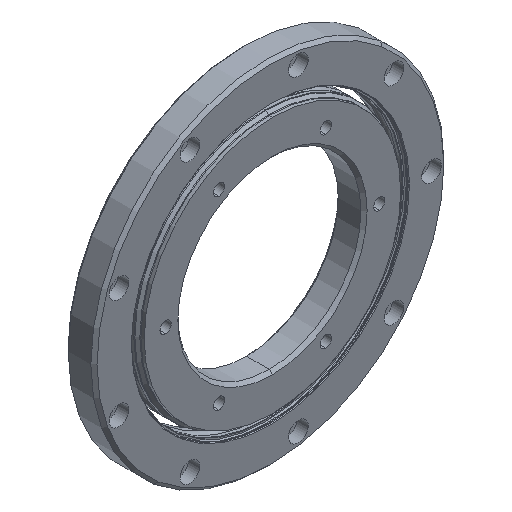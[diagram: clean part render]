
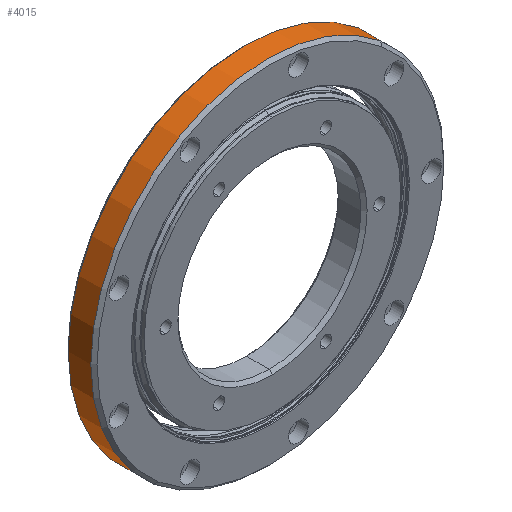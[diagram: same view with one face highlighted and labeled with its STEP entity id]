
A CAD part, isometric view. The second image highlights one B-rep face of the part: STEP entity #4015.
In plain terms, the highlighted cylindrical face has radius 85.725 mm (diameter 171.45 mm), a partial arc.
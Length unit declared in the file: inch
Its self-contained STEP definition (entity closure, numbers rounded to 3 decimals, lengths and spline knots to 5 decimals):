
#122 = CARTESIAN_POINT ( 'NONE',  ( 0., 0.5315, -3.375 ) ) ;
#291 = CARTESIAN_POINT ( 'NONE',  ( 0., 0., 0. ) ) ;
#328 = EDGE_CURVE ( 'NONE', #2618, #360, #4269, .T. ) ;
#360 = VERTEX_POINT ( 'NONE', #381 ) ;
#366 = CARTESIAN_POINT ( 'NONE',  ( 0., 0.09843, 0. ) ) ;
#381 = CARTESIAN_POINT ( 'NONE',  ( 0., 0.09843, -3.375 ) ) ;
#553 = CARTESIAN_POINT ( 'NONE',  ( 0., 0.09843, 3.375 ) ) ;
#631 = DIRECTION ( 'NONE',  ( 0., -1., 0. ) ) ;
#665 = VECTOR ( 'NONE', #631, 39.37008 ) ;
#718 = DIRECTION ( 'NONE',  ( 0., 0., -1. ) ) ;
#977 = DIRECTION ( 'NONE',  ( 0., -1., 0. ) ) ;
#1180 = DIRECTION ( 'NONE',  ( 0., -1., 0. ) ) ;
#1504 = VERTEX_POINT ( 'NONE', #553 ) ;
#1583 = ORIENTED_EDGE ( 'NONE', *, *, #2881, .T. ) ;
#1847 = AXIS2_PLACEMENT_3D ( 'NONE', #3282, #1180, #3613 ) ;
#1956 = VERTEX_POINT ( 'NONE', #3801 ) ;
#2172 = AXIS2_PLACEMENT_3D ( 'NONE', #366, #2820, #718 ) ;
#2246 = AXIS2_PLACEMENT_3D ( 'NONE', #291, #977, #4463 ) ;
#2517 = ORIENTED_EDGE ( 'NONE', *, *, #328, .T. ) ;
#2618 = VERTEX_POINT ( 'NONE', #122 ) ;
#2709 = CYLINDRICAL_SURFACE ( 'NONE', #2246, 3.375 ) ;
#2712 = CIRCLE ( 'NONE', #1847, 3.375 ) ;
#2816 = FACE_OUTER_BOUND ( 'NONE', #3840, .T. ) ;
#2820 = DIRECTION ( 'NONE',  ( 0., 1., 0. ) ) ;
#2881 = EDGE_CURVE ( 'NONE', #360, #1504, #3152, .T. ) ;
#3037 = EDGE_CURVE ( 'NONE', #1956, #2618, #2712, .T. ) ;
#3152 = CIRCLE ( 'NONE', #2172, 3.375 ) ;
#3282 = CARTESIAN_POINT ( 'NONE',  ( 0., 0.5315, 0. ) ) ;
#3432 = ORIENTED_EDGE ( 'NONE', *, *, #3037, .T. ) ;
#3613 = DIRECTION ( 'NONE',  ( 0., 0., -1. ) ) ;
#3681 = CARTESIAN_POINT ( 'NONE',  ( 0., 0., 3.375 ) ) ;
#3801 = CARTESIAN_POINT ( 'NONE',  ( 0., 0.5315, 3.375 ) ) ;
#3840 = EDGE_LOOP ( 'NONE', ( #4344, #3432, #2517, #1583 ) ) ;
#3899 = LINE ( 'NONE', #3681, #4106 ) ;
#4015 = ADVANCED_FACE ( 'NONE', ( #2816 ), #2709, .T. ) ;
#4033 = DIRECTION ( 'NONE',  ( 0., -1., 0. ) ) ;
#4106 = VECTOR ( 'NONE', #4033, 39.37008 ) ;
#4165 = EDGE_CURVE ( 'NONE', #1956, #1504, #3899, .T. ) ;
#4269 = LINE ( 'NONE', #4411, #665 ) ;
#4344 = ORIENTED_EDGE ( 'NONE', *, *, #4165, .F. ) ;
#4411 = CARTESIAN_POINT ( 'NONE',  ( 0., 0., -3.375 ) ) ;
#4463 = DIRECTION ( 'NONE',  ( 0., 0., -1. ) ) ;
